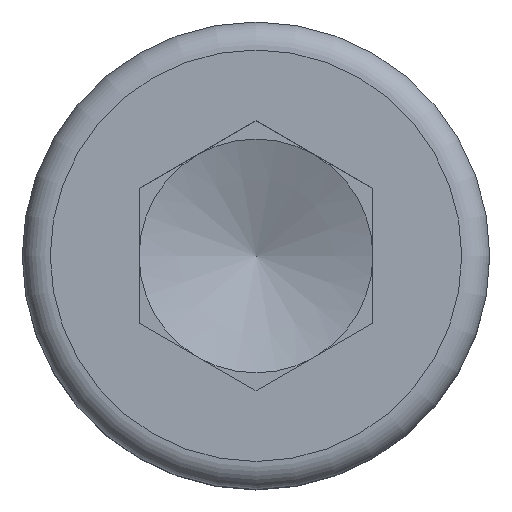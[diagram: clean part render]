
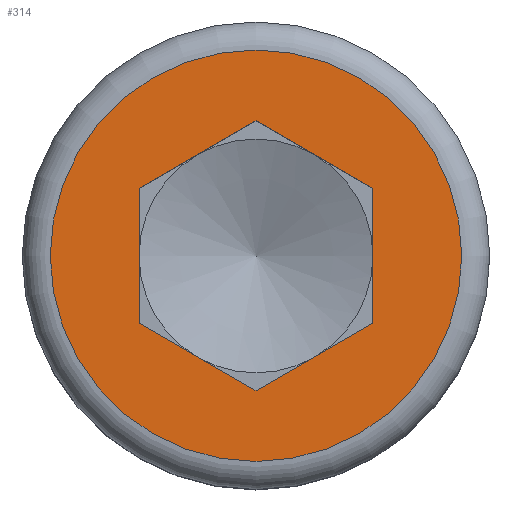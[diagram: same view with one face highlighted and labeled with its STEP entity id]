
A CAD part, top view. The second image highlights one B-rep face of the part: STEP entity #314.
In plain terms, the highlighted planar face has unit normal (0, 0, 1).
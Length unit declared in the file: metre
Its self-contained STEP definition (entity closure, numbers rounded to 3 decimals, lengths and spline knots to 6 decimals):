
#26=CIRCLE('',#356,0.0044);
#51=ORIENTED_EDGE('',*,*,#129,.T.);
#52=ORIENTED_EDGE('',*,*,#130,.T.);
#53=ORIENTED_EDGE('',*,*,#131,.T.);
#54=ORIENTED_EDGE('',*,*,#132,.T.);
#55=ORIENTED_EDGE('',*,*,#133,.T.);
#56=ORIENTED_EDGE('',*,*,#134,.T.);
#57=ORIENTED_EDGE('',*,*,#135,.T.);
#129=EDGE_CURVE('',#164,#164,#26,.T.);
#130=EDGE_CURVE('',#165,#166,#191,.T.);
#131=EDGE_CURVE('',#166,#167,#192,.T.);
#132=EDGE_CURVE('',#167,#168,#193,.T.);
#133=EDGE_CURVE('',#168,#169,#194,.T.);
#134=EDGE_CURVE('',#169,#170,#195,.T.);
#135=EDGE_CURVE('',#170,#165,#196,.T.);
#164=VERTEX_POINT('',#519);
#165=VERTEX_POINT('',#521);
#166=VERTEX_POINT('',#522);
#167=VERTEX_POINT('',#524);
#168=VERTEX_POINT('',#526);
#169=VERTEX_POINT('',#528);
#170=VERTEX_POINT('',#530);
#191=LINE('',#520,#215);
#192=LINE('',#523,#216);
#193=LINE('',#525,#217);
#194=LINE('',#527,#218);
#195=LINE('',#529,#219);
#196=LINE('',#531,#220);
#215=VECTOR('',#419,1.);
#216=VECTOR('',#420,1.);
#217=VECTOR('',#421,1.);
#218=VECTOR('',#422,1.);
#219=VECTOR('',#423,1.);
#220=VECTOR('',#424,1.);
#234=EDGE_LOOP('',(#51));
#235=EDGE_LOOP('',(#52,#53,#54,#55,#56,#57));
#266=FACE_BOUND('',#234,.T.);
#267=FACE_BOUND('',#235,.T.);
#299=PLANE('',#355);
#314=ADVANCED_FACE('',(#266,#267),#299,.F.);
#355=AXIS2_PLACEMENT_3D('',#517,#415,#416);
#356=AXIS2_PLACEMENT_3D('',#518,#417,#418);
#415=DIRECTION('',(0.,0.,-1.));
#416=DIRECTION('',(-1.,0.,0.));
#417=DIRECTION('',(0.,0.,1.));
#418=DIRECTION('',(1.,0.,0.));
#419=DIRECTION('',(0.,-1.,0.));
#420=DIRECTION('',(-0.866,-0.5,0.));
#421=DIRECTION('',(-0.866,0.5,0.));
#422=DIRECTION('',(0.,1.,0.));
#423=DIRECTION('',(0.866,0.5,0.));
#424=DIRECTION('',(0.866,-0.5,0.));
#517=CARTESIAN_POINT('',(-0.001102,0.,0.));
#518=CARTESIAN_POINT('',(0.,0.,0.));
#519=CARTESIAN_POINT('',(0.0044,0.,0.));
#520=CARTESIAN_POINT('',(0.0025,0.,0.));
#521=CARTESIAN_POINT('',(0.0025,0.001443,0.));
#522=CARTESIAN_POINT('',(0.0025,-0.001443,0.));
#523=CARTESIAN_POINT('',(0.001221,-0.002182,0.));
#524=CARTESIAN_POINT('',(0.,-0.002887,0.));
#525=CARTESIAN_POINT('',(-0.00125,-0.002165,0.));
#526=CARTESIAN_POINT('',(-0.0025,-0.001443,0.));
#527=CARTESIAN_POINT('',(-0.0025,0.,0.));
#528=CARTESIAN_POINT('',(-0.0025,0.001443,0.));
#529=CARTESIAN_POINT('',(-0.001243,0.002169,0.));
#530=CARTESIAN_POINT('',(0.,0.002887,0.));
#531=CARTESIAN_POINT('',(0.00125,0.002165,0.));
